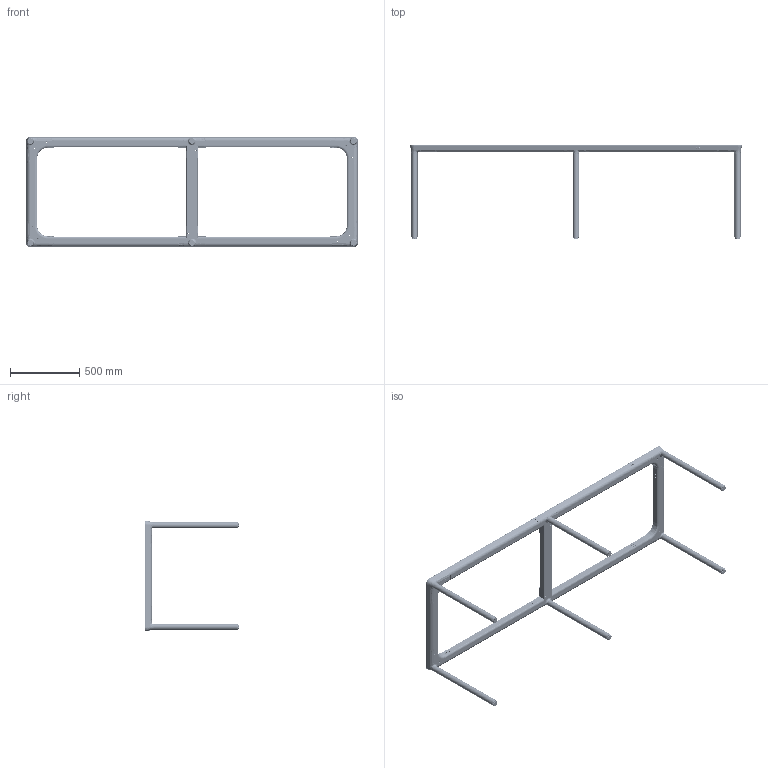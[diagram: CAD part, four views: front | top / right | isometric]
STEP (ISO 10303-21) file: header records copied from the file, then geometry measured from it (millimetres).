
FILE_DESCRIPTION (( 'STEP AP203' ), '1' );
FILE_NAME ('3D_TEK35.STEP', '2024-04-16T09:00:18', ( '' ), ( '' ), 'SwSTEP 2.0', 'SolidWorks 2015', '' );
FILE_SCHEMA (( 'CONFIG_CONTROL_DESIGN' ));
Length unit declared in the file: inch
Products named in the file (2): 3D_TEK35
Bounding box: 2399.5 x 680 x 801.14 mm (x, y, z)
Volume: 6844830.5 mm3; surface area: 5786723.8 mm2
Topology: 46 solids, 46 shells, 19109 faces, 50545 edges, 30614 vertices
Faces by surface type: cylinder 7676, plane 4888, bspline 4428, torus 1098, cone 605, sphere 414
Entity records: 973082 total; most frequent: CARTESIAN_POINT 553407, ORIENTED_EDGE 98890, DIRECTION 75767, EDGE_CURVE 49445, VERTEX_POINT 30602, AXIS2_PLACEMENT_3D 28979, EDGE_LOOP 19759, ADVANCED_FACE 19109
